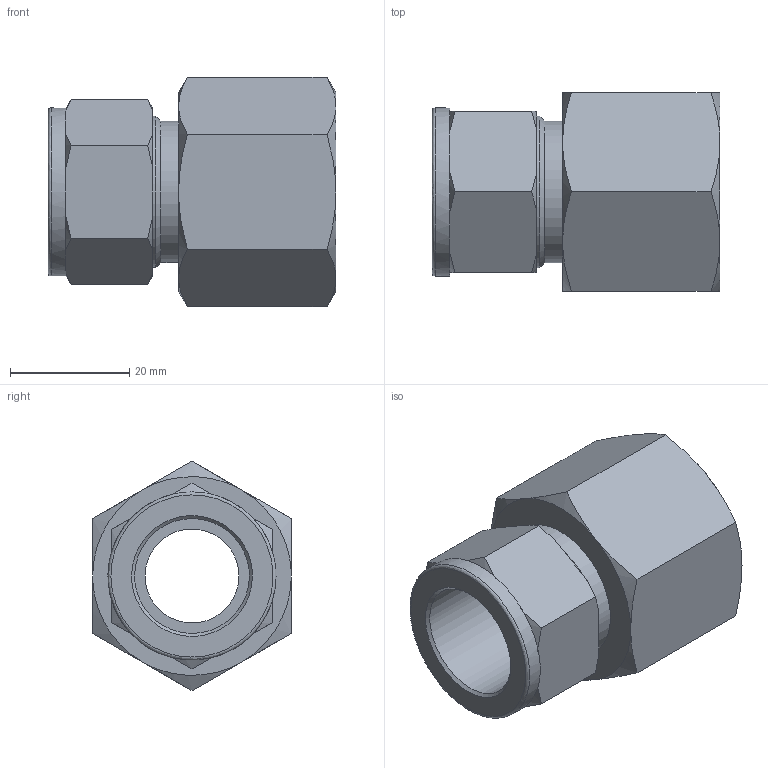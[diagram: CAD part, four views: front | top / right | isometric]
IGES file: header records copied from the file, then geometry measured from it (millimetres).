
Global section: file name: SFC-12-12N; native system: Autodesk Inventor 2016; preprocessor: unknown; author: 배성훈,,11,0; organization: 20151010.063339; date: 20151019.102843; units: millimetre
Bounding box: 48.29 x 33.33 x 38.49 mm (x, y, z)
Volume: 21514.3 mm3; surface area: 9753.4 mm2
Topology: 1 solids, 1 shells, 60 faces, 148 edges, 94 vertices
Faces by surface type: bspline 60
